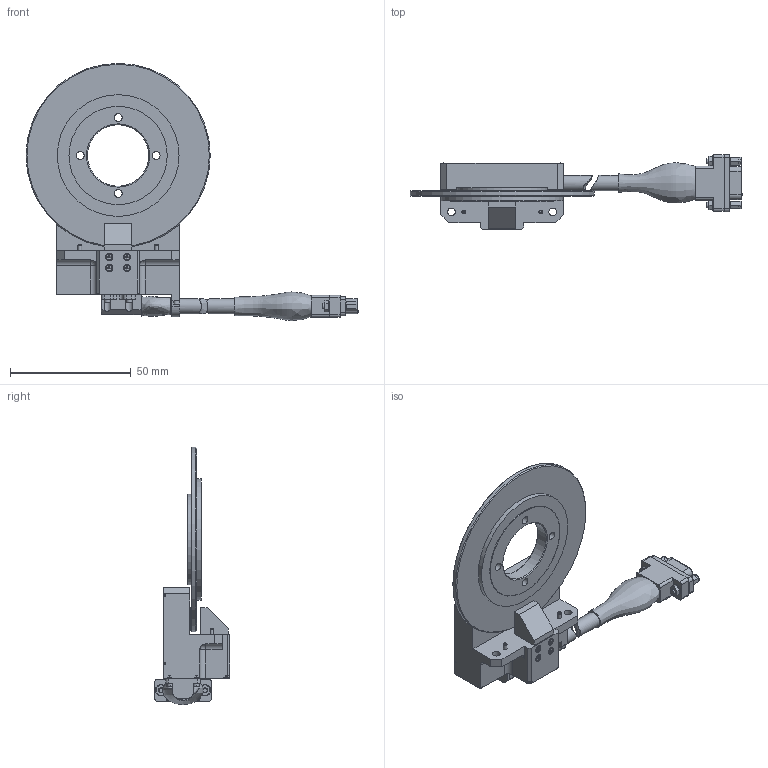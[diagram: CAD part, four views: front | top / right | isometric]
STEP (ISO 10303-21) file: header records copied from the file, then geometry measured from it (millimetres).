
FILE_DESCRIPTION (( 'STEP AP214' ), '1' );
FILE_NAME ('190-0315-01 Encoder Outline, 3 inch.STEP', '2021-02-24T18:23:38', ( '' ), ( '' ), 'SwSTEP 2.0', 'SolidWorks 2019', '' );
FILE_SCHEMA (( 'AUTOMOTIVE_DESIGN' ));
Length unit declared in the file: inch
Products named in the file (3): AIME-II Readhead Assy, Left Exit; Disk Hub Assy, 3 inch; 190-0315-01 Encoder Outline, 3 inch
Assembly tree (2 placements, depth 2):
  190-0315-01 Encoder Outline, 3 inch
    Disk Hub Assy, 3 inch
    AIME-II Readhead Assy, Left Exit
Bounding box: 137.29 x 31.12 x 106.38 mm (x, y, z)
Volume: 51751.4 mm3; surface area: 23106.6 mm2
Topology: 3 solids, 15 shells, 1569 faces, 3922 edges, 2557 vertices
Faces by surface type: plane 1048, cylinder 223, bspline 213, cone 81, sphere 2, torus 2
Full cylindrical faces by diameter (mm): 0.508 x15, 0.635 x15, 1.513 x1, 1.524 x12, 1.575 x2, 1.59 x2, 1.694 x2, 1.778 x12, 2.17 x4, 2.2 x2, 2.311 x2, 2.339 x1, 2.36 x2, 2.4 x2, 2.438 x18, 3.251 x2, 3.264 x4, 6.35 x3, 25.4 x1, 37.338 x1, 38.862 x1, 40.64 x1, 50.343 x1, 76.2 x1
Entity records: 88571 total; most frequent: CARTESIAN_POINT 33043, ORIENTED_EDGE 7238, DIRECTION 6432, EDGE_CURVE 3619, LINE 2616, VECTOR 2616, VERTEX_POINT 2458, EDGE_LOOP 1991
